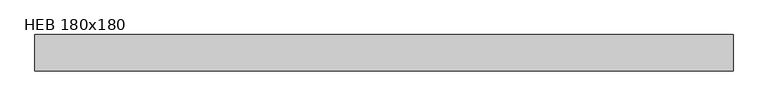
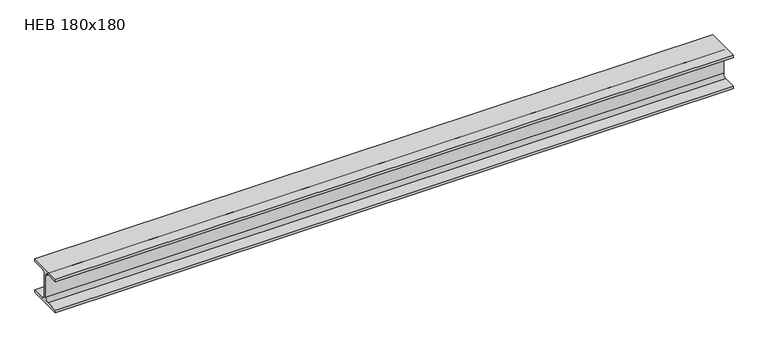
"""IFC4 building model written with IfcOpenShell, lengths in millimetres: beam geometry, M_HP-Bearing Pile : HEB 180x180."""

from ifc_helpers import new_model, si_unit, point, frame, frame_2d, origin, place, context, project, spatial, polyline, circle_curve, trimmed, segment, composite_curve, outline, extrude, source, transform, mapped, element, save


def heb_180x180_0f2e0399(model_context):
    return source(origin(), model_context, "Body", "SweptSolid", [
        extrude(outline(composite_curve([segment(polyline([(-90.0, -76.9), (-25.45, -76.9)]), True, "CONTINUOUS"), segment(trimmed(circle_curve(frame_2d((-25.45, -58.0)), 18.9), [point((-25.45, -76.9))], [point((-6.55, -58.0))], True, "CARTESIAN"), True, "CONTINUOUS"), segment(polyline([(-6.55, -58.0), (-6.55, 58.0)]), True, "CONTINUOUS"), segment(trimmed(circle_curve(frame_2d((-25.45, 58.0)), 18.9), [point((-6.55, 58.0))], [point((-25.45, 76.9))], True, "CARTESIAN"), True, "CONTINUOUS"), segment(polyline([(-25.45, 76.9), (-90.0, 76.9), (-90.0, 90.0), (90.0, 90.0), (90.0, 76.9), (25.45, 76.9)]), True, "CONTINUOUS"), segment(trimmed(circle_curve(frame_2d((25.45, 58.0)), 18.9), [point((25.45, 76.9))], [point((6.55, 58.0))], True, "CARTESIAN"), True, "CONTINUOUS"), segment(polyline([(6.55, 58.0), (6.55, -58.0)]), True, "CONTINUOUS"), segment(trimmed(circle_curve(frame_2d((25.45, -58.0)), 18.9), [point((6.55, -58.0))], [point((25.45, -76.9))], True, "CARTESIAN"), True, "CONTINUOUS"), segment(polyline([(25.45, -76.9), (90.0, -76.9), (90.0, -90.0), (-90.0, -90.0), (-90.0, -76.9)]), True, "CONTINUOUS")], self_intersect=False)), frame((-2076.4994951, 0.0, 0.0), z_axis=(1.0, 0.0, 0.0), x_axis=(0.0, 1.0, 0.0)), (0.0, 0.0, 1.0), 3446.3341551),
    ])


if __name__ == "__main__":
    model = new_model("IFC4")
    model_context = context("Model", 3, world=origin())
    ifc_project = project(units=[si_unit("LENGTHUNIT", "METRE", prefix="MILLI")], contexts=[model_context])
    site = spatial("IfcSite", under=ifc_project)
    building = spatial("IfcBuilding", under=site)
    placement = place(None, origin())
    heb_180x180_shape = heb_180x180_0f2e0399(model_context)
    element("IfcBeam", 1, ObjectType="M_HP-Bearing Pile : HEB 180x180", at=placement, inside=building, context=model_context, shape_type="MappedRepresentation", body=[
        mapped(heb_180x180_shape, transform((0.0, 0.0, 0.0), x_axis=(1.0, 0.0, 0.0), y_axis=(0.0, 1.0, 0.0), z_axis=(0.0, 0.0, 1.0))),
    ])
    save(model, "model.ifc")
